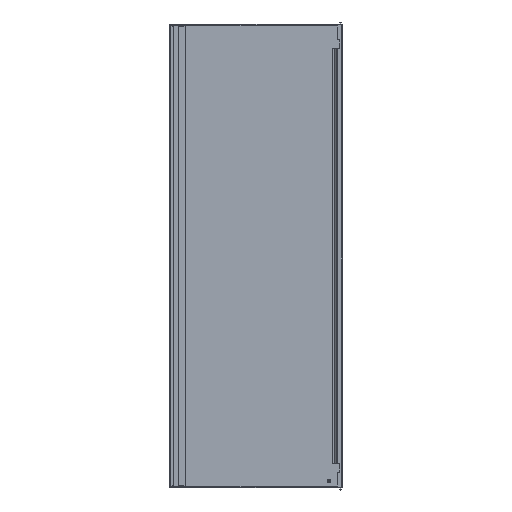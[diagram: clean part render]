
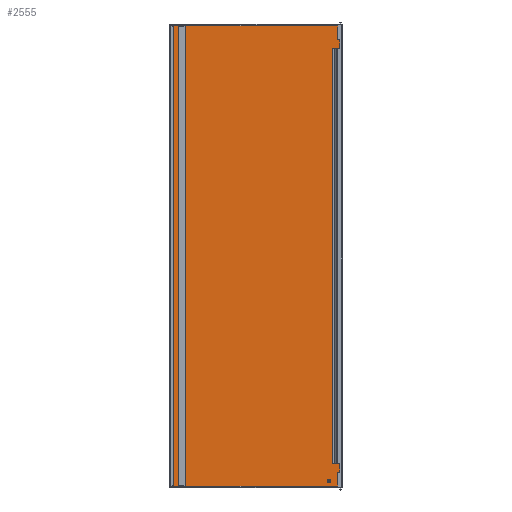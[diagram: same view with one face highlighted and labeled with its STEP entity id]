
A CAD part, top view. The second image highlights one B-rep face of the part: STEP entity #2555.
In plain terms, the highlighted planar face has unit normal (0, 0, 1).
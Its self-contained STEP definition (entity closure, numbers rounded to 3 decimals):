
#293 = ORIENTED_EDGE ( 'NONE', *, *, #3040, .F. ) ;
#294 = ORIENTED_EDGE ( 'NONE', *, *, #3041, .F. ) ;
#295 = ORIENTED_EDGE ( 'NONE', *, *, #3039, .F. ) ;
#296 = ORIENTED_EDGE ( 'NONE', *, *, #3043, .F. ) ;
#297 = ORIENTED_EDGE ( 'NONE', *, *, #3044, .F. ) ;
#298 = ORIENTED_EDGE ( 'NONE', *, *, #3045, .T. ) ;
#299 = ORIENTED_EDGE ( 'NONE', *, *, #3042, .T. ) ;
#300 = ORIENTED_EDGE ( 'NONE', *, *, #3046, .T. ) ;
#301 = ORIENTED_EDGE ( 'NONE', *, *, #3047, .T. ) ;
#302 = ORIENTED_EDGE ( 'NONE', *, *, #3048, .F. ) ;
#303 = ORIENTED_EDGE ( 'NONE', *, *, #3051, .F. ) ;
#304 = ORIENTED_EDGE ( 'NONE', *, *, #3049, .F. ) ;
#305 = ORIENTED_EDGE ( 'NONE', *, *, #3023, .F. ) ;
#306 = ORIENTED_EDGE ( 'NONE', *, *, #3052, .F. ) ;
#307 = ORIENTED_EDGE ( 'NONE', *, *, #3050, .F. ) ;
#308 = ORIENTED_EDGE ( 'NONE', *, *, #3053, .F. ) ;
#378 = EDGE_LOOP ( 'NONE', ( #293, #295, #294, #296 ) ) ;
#379 = EDGE_LOOP ( 'NONE', ( #297, #299, #298, #300, #301, #302 ) ) ;
#380 = EDGE_LOOP ( 'NONE', ( #304, #305 ) ) ;
#381 = EDGE_LOOP ( 'NONE', ( #303, #307, #306, #308 ) ) ;
#565 = VERTEX_POINT ( 'NONE', #4694 ) ;
#566 = VERTEX_POINT ( 'NONE', #4693 ) ;
#579 = VERTEX_POINT ( 'NONE', #4680 ) ;
#580 = VERTEX_POINT ( 'NONE', #4679 ) ;
#581 = VERTEX_POINT ( 'NONE', #4678 ) ;
#582 = VERTEX_POINT ( 'NONE', #4677 ) ;
#583 = VERTEX_POINT ( 'NONE', #4676 ) ;
#584 = VERTEX_POINT ( 'NONE', #4675 ) ;
#585 = VERTEX_POINT ( 'NONE', #4674 ) ;
#586 = VERTEX_POINT ( 'NONE', #4673 ) ;
#587 = VERTEX_POINT ( 'NONE', #4672 ) ;
#588 = VERTEX_POINT ( 'NONE', #4671 ) ;
#589 = VERTEX_POINT ( 'NONE', #4670 ) ;
#590 = VERTEX_POINT ( 'NONE', #4669 ) ;
#591 = VERTEX_POINT ( 'NONE', #4668 ) ;
#592 = VERTEX_POINT ( 'NONE', #4667 ) ;
#1058 = DIRECTION ( 'NONE',  ( 0., -1., 0. ) ) ;
#1059 = CARTESIAN_POINT ( 'NONE',  ( -324.6, -956.75, -12. ) ) ;
#1060 = LINE ( 'NONE', #1059, #2163 ) ;
#1061 = DIRECTION ( 'NONE',  ( 1., 0., 0. ) ) ;
#1062 = CARTESIAN_POINT ( 'NONE',  ( -324.6, -956.75, -12. ) ) ;
#1063 = LINE ( 'NONE', #1062, #2164 ) ;
#1064 = DIRECTION ( 'NONE',  ( -1., 0., 0. ) ) ;
#1065 = CARTESIAN_POINT ( 'NONE',  ( -324.6, 956.75, -12. ) ) ;
#1066 = LINE ( 'NONE', #1065, #2166 ) ;
#1067 = DIRECTION ( 'NONE',  ( 0., 1., 0. ) ) ;
#1068 = CARTESIAN_POINT ( 'NONE',  ( -295.5, -956.75, -12. ) ) ;
#1069 = LINE ( 'NONE', #1068, #2167 ) ;
#1071 = DIRECTION ( 'NONE',  ( 1., 0., 0. ) ) ;
#1072 = DIRECTION ( 'NONE',  ( 0., 0., 1. ) ) ;
#1073 = DIRECTION ( 'NONE',  ( -1., 0., 0. ) ) ;
#1074 = CARTESIAN_POINT ( 'NONE',  ( 326.879, 865.75, -12. ) ) ;
#1075 = LINE ( 'NONE', #1074, #2173 ) ;
#1076 = CARTESIAN_POINT ( 'NONE',  ( 304., -936.75, -12. ) ) ;
#1077 = DIRECTION ( 'NONE',  ( 1., 0., 0. ) ) ;
#1078 = DIRECTION ( 'NONE',  ( 0., 0., -1. ) ) ;
#1079 = DIRECTION ( 'NONE',  ( 0., 1., 0. ) ) ;
#1080 = CARTESIAN_POINT ( 'NONE',  ( 320.121, -888.171, -12. ) ) ;
#1081 = LINE ( 'NONE', #1080, #2177 ) ;
#1082 = CARTESIAN_POINT ( 'NONE',  ( 324.621, 861.25, -12. ) ) ;
#1083 = DIRECTION ( 'NONE',  ( 1., 0., 0. ) ) ;
#1084 = DIRECTION ( 'NONE',  ( 0., 0., -1. ) ) ;
#1085 = DIRECTION ( 'NONE',  ( 0., 1., 0. ) ) ;
#1086 = CARTESIAN_POINT ( 'NONE',  ( 326.879, -888.171, -12. ) ) ;
#1087 = LINE ( 'NONE', #1086, #2181 ) ;
#1088 = DIRECTION ( 'NONE',  ( -1., 0., 0. ) ) ;
#1089 = CARTESIAN_POINT ( 'NONE',  ( 0., -963.75, -12. ) ) ;
#1090 = LINE ( 'NONE', #1089, #2182 ) ;
#1091 = DIRECTION ( 'NONE',  ( -1., 0., 0. ) ) ;
#1092 = CARTESIAN_POINT ( 'NONE',  ( 326.879, -865.75, -12. ) ) ;
#1093 = LINE ( 'NONE', #1092, #2185 ) ;
#1094 = DIRECTION ( 'NONE',  ( 0., 1., 0. ) ) ;
#1095 = CARTESIAN_POINT ( 'NONE',  ( -356., 0., -12. ) ) ;
#1096 = LINE ( 'NONE', #1095, #2188 ) ;
#1097 = DIRECTION ( 'NONE',  ( 0., -1., 0. ) ) ;
#1098 = CARTESIAN_POINT ( 'NONE',  ( 356., 0., -12. ) ) ;
#1099 = LINE ( 'NONE', #1098, #2190 ) ;
#1100 = DIRECTION ( 'NONE',  ( 1., 0., 0. ) ) ;
#1101 = CARTESIAN_POINT ( 'NONE',  ( 0., 963.75, -12. ) ) ;
#1102 = LINE ( 'NONE', #1101, #2193 ) ;
#1106 = CARTESIAN_POINT ( 'NONE',  ( 324.621, -861.25, -12. ) ) ;
#1149 = DIRECTION ( 'NONE',  ( 1., 0., 0. ) ) ;
#1150 = DIRECTION ( 'NONE',  ( 0., 0., 1. ) ) ;
#1151 = CARTESIAN_POINT ( 'NONE',  ( 304., -936.75, -12. ) ) ;
#2163 = VECTOR ( 'NONE', #1058, 1000. ) ;
#2164 = VECTOR ( 'NONE', #1061, 1000. ) ;
#2166 = VECTOR ( 'NONE', #1064, 1000. ) ;
#2167 = VECTOR ( 'NONE', #1067, 1000. ) ;
#2173 = VECTOR ( 'NONE', #1073, 1000. ) ;
#2177 = VECTOR ( 'NONE', #1079, 1000. ) ;
#2181 = VECTOR ( 'NONE', #1085, 1000. ) ;
#2182 = VECTOR ( 'NONE', #1088, 1000. ) ;
#2185 = VECTOR ( 'NONE', #1091, 1000. ) ;
#2186 = AXIS2_PLACEMENT_3D ( 'NONE', #1106, #1084, #1083 ) ;
#2188 = VECTOR ( 'NONE', #1094, 1000. ) ;
#2190 = VECTOR ( 'NONE', #1097, 1000. ) ;
#2193 = VECTOR ( 'NONE', #1100, 1000. ) ;
#2204 = AXIS2_PLACEMENT_3D ( 'NONE', #1082, #1078, #1077 ) ;
#2214 = AXIS2_PLACEMENT_3D ( 'NONE', #1076, #1072, #1071 ) ;
#2236 = AXIS2_PLACEMENT_3D ( 'NONE', #1151, #1150, #1149 ) ;
#2341 = CIRCLE ( 'NONE', #2214, 0.25 ) ;
#2342 = CIRCLE ( 'NONE', #2204, 4.5 ) ;
#2343 = CIRCLE ( 'NONE', #2186, 4.5 ) ;
#2350 = CIRCLE ( 'NONE', #2236, 0.25 ) ;
#2555 = ADVANCED_FACE ( 'NONE', ( #4597, #4591, #4585, #4582 ), #4006, .T. ) ;
#3023 = EDGE_CURVE ( 'NONE', #565, #566, #2350, .T. ) ;
#3039 = EDGE_CURVE ( 'NONE', #581, #579, #1102, .T. ) ;
#3040 = EDGE_CURVE ( 'NONE', #579, #580, #1099, .T. ) ;
#3041 = EDGE_CURVE ( 'NONE', #582, #581, #1096, .T. ) ;
#3042 = EDGE_CURVE ( 'NONE', #583, #585, #1093, .T. ) ;
#3043 = EDGE_CURVE ( 'NONE', #580, #582, #1090, .T. ) ;
#3044 = EDGE_CURVE ( 'NONE', #583, #584, #1087, .T. ) ;
#3045 = EDGE_CURVE ( 'NONE', #585, #586, #2343, .T. ) ;
#3046 = EDGE_CURVE ( 'NONE', #586, #587, #1081, .T. ) ;
#3047 = EDGE_CURVE ( 'NONE', #587, #588, #2342, .T. ) ;
#3048 = EDGE_CURVE ( 'NONE', #584, #588, #1075, .T. ) ;
#3049 = EDGE_CURVE ( 'NONE', #566, #565, #2341, .T. ) ;
#3050 = EDGE_CURVE ( 'NONE', #591, #589, #1069, .T. ) ;
#3051 = EDGE_CURVE ( 'NONE', #589, #590, #1066, .T. ) ;
#3052 = EDGE_CURVE ( 'NONE', #592, #591, #1063, .T. ) ;
#3053 = EDGE_CURVE ( 'NONE', #590, #592, #1060, .T. ) ;
#4003 = DIRECTION ( 'NONE',  ( 1., 0., 0. ) ) ;
#4004 = DIRECTION ( 'NONE',  ( 0., 0., 1. ) ) ;
#4005 = CARTESIAN_POINT ( 'NONE',  ( 0., 0., -12. ) ) ;
#4006 = PLANE ( 'NONE',  #4594 ) ;
#4582 = FACE_BOUND ( 'NONE', #381, .T. ) ;
#4585 = FACE_BOUND ( 'NONE', #380, .T. ) ;
#4591 = FACE_BOUND ( 'NONE', #379, .T. ) ;
#4594 = AXIS2_PLACEMENT_3D ( 'NONE', #4005, #4004, #4003 ) ;
#4597 = FACE_OUTER_BOUND ( 'NONE', #378, .T. ) ;
#4667 = CARTESIAN_POINT ( 'NONE',  ( -324.6, -956.75, -12. ) ) ;
#4668 = CARTESIAN_POINT ( 'NONE',  ( -295.5, -956.75, -12. ) ) ;
#4669 = CARTESIAN_POINT ( 'NONE',  ( -324.6, 956.75, -12. ) ) ;
#4670 = CARTESIAN_POINT ( 'NONE',  ( -295.5, 956.75, -12. ) ) ;
#4671 = CARTESIAN_POINT ( 'NONE',  ( 324.621, 865.75, -12. ) ) ;
#4672 = CARTESIAN_POINT ( 'NONE',  ( 320.121, 861.25, -12. ) ) ;
#4673 = CARTESIAN_POINT ( 'NONE',  ( 320.121, -861.25, -12. ) ) ;
#4674 = CARTESIAN_POINT ( 'NONE',  ( 324.621, -865.75, -12. ) ) ;
#4675 = CARTESIAN_POINT ( 'NONE',  ( 326.879, 865.75, -12. ) ) ;
#4676 = CARTESIAN_POINT ( 'NONE',  ( 326.879, -865.75, -12. ) ) ;
#4677 = CARTESIAN_POINT ( 'NONE',  ( -356., -963.75, -12. ) ) ;
#4678 = CARTESIAN_POINT ( 'NONE',  ( -356., 963.75, -12. ) ) ;
#4679 = CARTESIAN_POINT ( 'NONE',  ( 356., -963.75, -12. ) ) ;
#4680 = CARTESIAN_POINT ( 'NONE',  ( 356., 963.75, -12. ) ) ;
#4693 = CARTESIAN_POINT ( 'NONE',  ( 304.25, -936.75, -12. ) ) ;
#4694 = CARTESIAN_POINT ( 'NONE',  ( 303.75, -936.75, -12. ) ) ;
